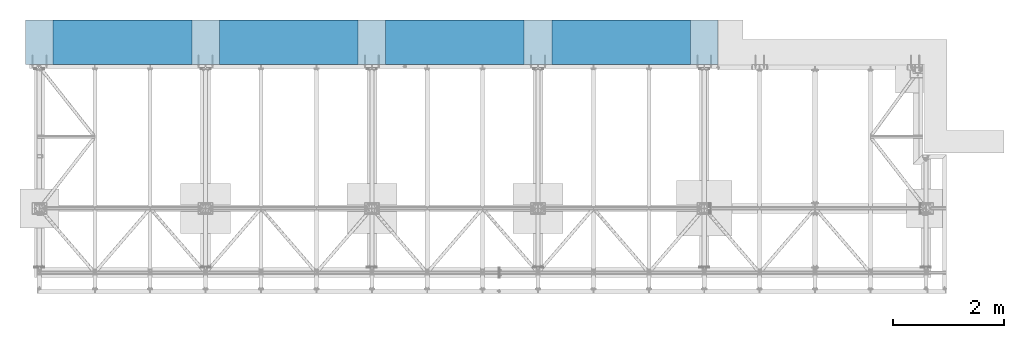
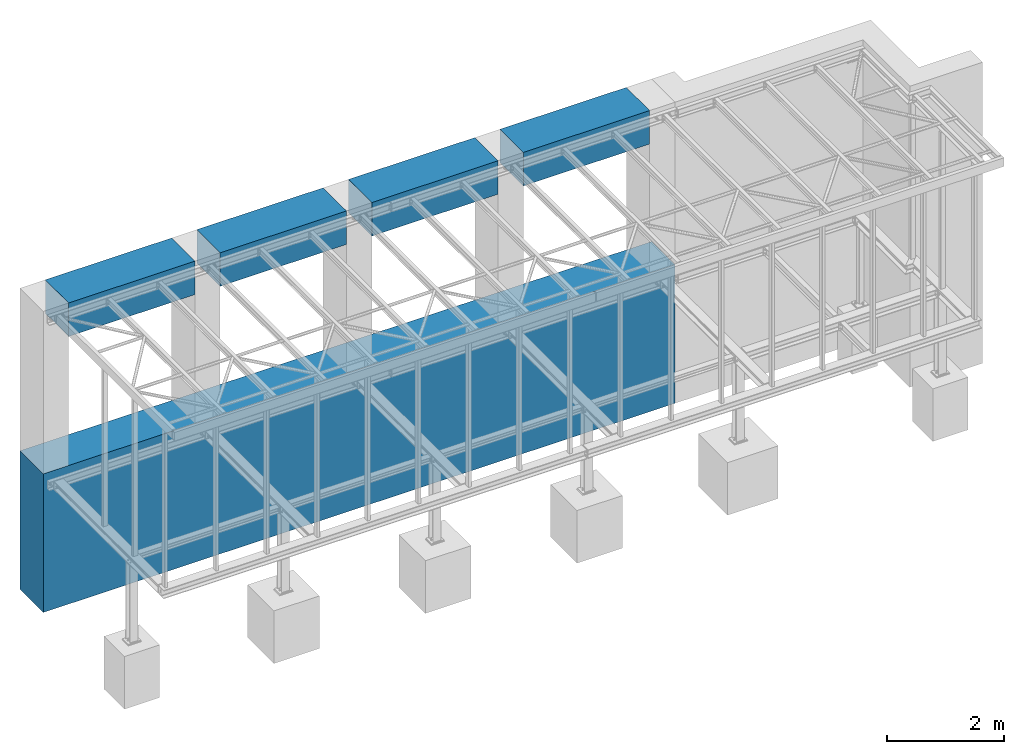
# One storey, part 23 of 23: 5 beams, 5 elements without a shape of their own.
"""IFC2X3 building model written with IfcOpenShell, lengths in millimetres."""

from ifc_helpers import new_model, si_unit, frame, origin_with_axes, place, context, subcontext, project, spatial, faceted_brep, material, type_object, element, aggregate, save


model = new_model("IFC2X3")

# Units and contexts
model_context = context("Model", 3, precision=1e-05, world=origin_with_axes())
body_context = subcontext(model_context, "Body", "Model", "MODEL_VIEW")
ifc_project = project(units=[si_unit("LENGTHUNIT", "METRE", prefix="MILLI"), si_unit("AREAUNIT", "SQUARE_METRE"), si_unit("VOLUMEUNIT", "CUBIC_METRE"), si_unit("MASSUNIT", "GRAM", prefix="KILO"), si_unit("TIMEUNIT", "SECOND"), si_unit("PLANEANGLEUNIT", "RADIAN"), si_unit("SOLIDANGLEUNIT", "STERADIAN"), si_unit("THERMODYNAMICTEMPERATUREUNIT", "DEGREE_CELSIUS"), si_unit("LUMINOUSINTENSITYUNIT", "LUMEN")], contexts=[model_context])

# Site, building, storey
site_placement = place(None, origin_with_axes())
site = spatial("IfcSite", under=ifc_project, at=site_placement, Name="Undefined", CompositionType="ELEMENT")
building_placement = place(site_placement, origin_with_axes())
building = spatial("IfcBuilding", under=site, at=building_placement, Name="Undefined", CompositionType="ELEMENT")
storey_placement = place(building_placement, origin_with_axes())
storey = spatial("IfcBuildingStorey", under=building, at=storey_placement, Name="Undefined", CompositionType="ELEMENT", Elevation=0.0)

# Assembly, beam
assembly_1_placement = place(storey_placement, origin_with_axes())
assembly_1 = element("IfcElementAssembly", 1, at=assembly_1_placement, inside=storey, AssemblyPlace="NOTDEFINED", PredefinedType="REINFORCEMENT_UNIT")
ifc_material = material(Name="CONCRETE/C45/55")
beam_type_1 = type_object("IfcBeamType", Name="800*700", PredefinedType="NOTDEFINED")
beam_1_placement = place(assembly_1_placement, frame((3300.0, 4260.0, 3050.0), z_axis=(0.0, 0.0, 1.0), x_axis=(1.0, 0.0, 0.0)))
beam_1 = element("IfcBeam", 2, at=beam_1_placement, type_object=beam_type_1, material=ifc_material, Name="Preklad", ObjectType="800*700", context=body_context, shape_type="Brep", body=[
    faceted_brep([(0.0, 400.0, -350.0), (0.0, 400.0, 350.0), (2500.0, 400.0, 350.0), (2500.0, 400.0, -350.0), (0.0, -400.0, 350.0), (2500.0, -400.0, 350.0), (0.0, -400.0, -350.0), (2500.0, -400.0, -350.0)], [[[0, 1, 2, 3]], [[1, 4, 5, 2]], [[4, 6, 7, 5]], [[6, 0, 3, 7]], [[5, 7, 3, 2]], [[6, 4, 1, 0]]]),
])
aggregate(assembly_1, [beam_1])

assembly_2_placement = place(storey_placement, origin_with_axes())
assembly_2 = element("IfcElementAssembly", 3, at=assembly_2_placement, inside=storey, Name="BEAM", AssemblyPlace="NOTDEFINED", PredefinedType="REINFORCEMENT_UNIT")
beam_2_placement = place(assembly_2_placement, frame((9300.0, 4260.0, 3050.0), z_axis=(0.0, 0.0, 1.0), x_axis=(1.0, 0.0, 0.0)))
beam_2 = element("IfcBeam", 4, at=beam_2_placement, type_object=beam_type_1, material=ifc_material, Name="Preklad", ObjectType="800*700", context=body_context, shape_type="Brep", body=[
    faceted_brep([(0.0, 400.0, -350.0), (0.0, 400.0, 350.0), (2500.0, 400.0, 350.0), (2500.0, 400.0, -350.0), (0.0, -400.0, 350.0), (2500.0, -400.0, 350.0), (0.0, -400.0, -350.0), (2500.0, -400.0, -350.0)], [[[0, 1, 2, 3]], [[1, 4, 5, 2]], [[4, 6, 7, 5]], [[6, 0, 3, 7]], [[5, 7, 3, 2]], [[6, 4, 1, 0]]]),
])
aggregate(assembly_2, [beam_2])

assembly_3_placement = place(storey_placement, origin_with_axes())
assembly_3 = element("IfcElementAssembly", 5, at=assembly_3_placement, inside=storey, Name="BEAM", AssemblyPlace="NOTDEFINED", PredefinedType="REINFORCEMENT_UNIT")
beam_3_placement = place(assembly_3_placement, frame((6300.0, 4260.0, 3050.0), z_axis=(0.0, 0.0, 1.0), x_axis=(1.0, 0.0, 0.0)))
beam_3 = element("IfcBeam", 6, at=beam_3_placement, type_object=beam_type_1, material=ifc_material, Name="Preklad", ObjectType="800*700", context=body_context, shape_type="Brep", body=[
    faceted_brep([(0.0, 400.0, -350.0), (0.0, 400.0, 350.0), (2500.0, 400.0, 350.0), (2500.0, 400.0, -350.0), (0.0, -400.0, 350.0), (2500.0, -400.0, 350.0), (0.0, -400.0, -350.0), (2500.0, -400.0, -350.0)], [[[0, 1, 2, 3]], [[1, 4, 5, 2]], [[4, 6, 7, 5]], [[6, 0, 3, 7]], [[5, 7, 3, 2]], [[6, 4, 1, 0]]]),
])
aggregate(assembly_3, [beam_3])

assembly_4_placement = place(storey_placement, origin_with_axes())
assembly_4 = element("IfcElementAssembly", 7, at=assembly_4_placement, inside=storey, Name="BEAM", AssemblyPlace="NOTDEFINED", PredefinedType="REINFORCEMENT_UNIT")
beam_4_placement = place(assembly_4_placement, frame((300.0, 4260.0, 3050.0), z_axis=(0.0, 0.0, 1.0), x_axis=(1.0, 0.0, 0.0)))
beam_4 = element("IfcBeam", 8, at=beam_4_placement, type_object=beam_type_1, material=ifc_material, Name="Preklad", ObjectType="800*700", context=body_context, shape_type="Brep", body=[
    faceted_brep([(0.0, 400.0, -350.0), (0.0, 400.0, 350.0), (2500.0, 400.0, 350.0), (2500.0, 400.0, -350.0), (0.0, -400.0, 350.0), (2500.0, -400.0, 350.0), (0.0, -400.0, -350.0), (2500.0, -400.0, -350.0)], [[[0, 1, 2, 3]], [[1, 4, 5, 2]], [[4, 6, 7, 5]], [[6, 0, 3, 7]], [[5, 7, 3, 2]], [[6, 4, 1, 0]]]),
])
aggregate(assembly_4, [beam_4])

assembly_5_placement = place(storey_placement, origin_with_axes())
assembly_5 = element("IfcElementAssembly", 9, at=assembly_5_placement, inside=storey, Name="BEAM", AssemblyPlace="NOTDEFINED", PredefinedType="REINFORCEMENT_UNIT")
beam_type_2 = type_object("IfcBeamType", Name="800*2900", PredefinedType="NOTDEFINED")
beam_5_placement = place(assembly_5_placement, frame((-200.0, 4260.0, -1450.0), z_axis=(0.0, 0.0, 1.0), x_axis=(1.0, 0.0, 0.0)))
beam_5 = element("IfcBeam", 10, at=beam_5_placement, type_object=beam_type_2, material=ifc_material, Name="Stena", ObjectType="800*2900", context=body_context, shape_type="Brep", body=[
    faceted_brep([(0.0, 400.0, -1450.0), (0.0, 400.0, 1450.0), (12500.0, 400.0, 1450.0), (12500.0, 400.0, -1450.0), (0.0, -400.0, 1450.0), (12500.0, -400.0, 1450.0), (0.0, -400.0, -1450.0), (12500.0, -400.0, -1450.0)], [[[0, 1, 2, 3]], [[1, 4, 5, 2]], [[4, 6, 7, 5]], [[6, 0, 3, 7]], [[5, 7, 3, 2]], [[6, 4, 1, 0]]]),
])
aggregate(assembly_5, [beam_5])

save(model, "model.ifc")
